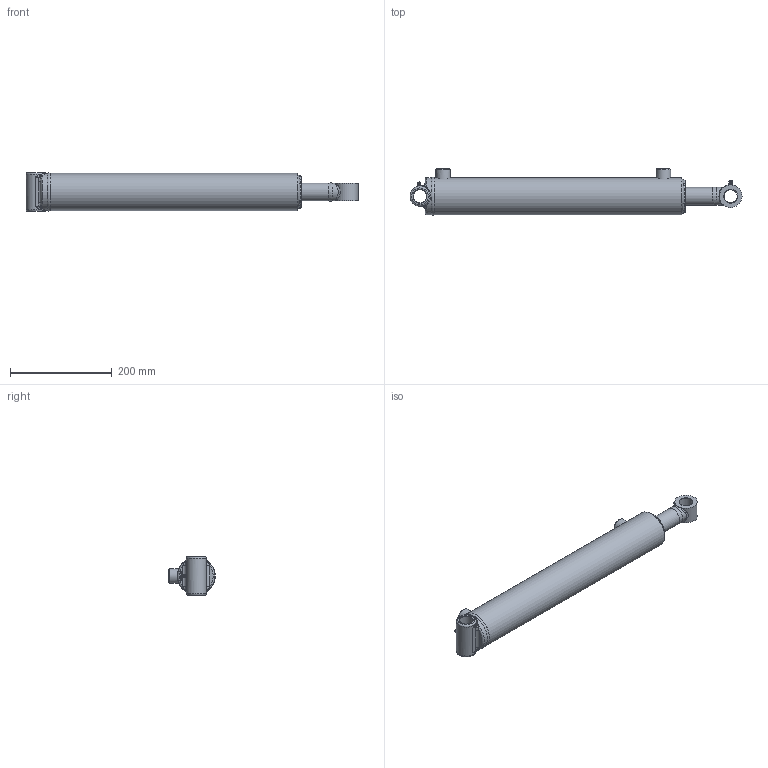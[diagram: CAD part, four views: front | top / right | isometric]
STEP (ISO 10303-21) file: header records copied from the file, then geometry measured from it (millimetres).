
FILE_DESCRIPTION(/* description */ ('Ø2.50 X 16.00 DA'),/* implementation_level */ '2;1');
FILE_NAME(/* name */ 'result.stp',/* time_stamp */ '2024-03-21T14:53:37Z',/* author */ ('AJC'),/* organization */ ('PRINCE MANUFACTURING'),/* preprocessor_version */ 'ST-DEVELOPER v20',/* originating_system */ 'Autodesk Inventor 2024',/* authorisation */ '');
FILE_SCHEMA (('AUTOMOTIVE_DESIGN { 1 0 10303 214 3 1 1 }'));
Length unit declared in the file: inch
Products named in the file (21): PC2516013A00-240XYXA; 0613-XYSF000-19237; 0513-T-19237; 161300230; 200015602; 06Weld1_C360; 0713-P-075; 220000208; 0813-G-138; 230025103; 230025003; 240000018; 240061330; 240000330; 0207A-FAW0-22250XA; 0107A-FAW0-22250; 210400812; 02Weld_C360; 240037106; 250014137; 270010020
Assembly tree (22 placements, depth 3):
  PC2516013A00-240XYXA
    0613-XYSF000-19237
      0513-T-19237
      161300230
      200015602  x2
      06Weld1_C360
    0713-P-075
    220000208
    0813-G-138
    230025103
    230025003
    240000018
    240061330
    240000330
    0207A-FAW0-22250XA
      0107A-FAW0-22250
      210400812
      02Weld_C360
    240037106
    250014137
    270010020  x2
Bounding box: 651.31 x 91.34 x 76.2 mm (x, y, z)
Volume: 1326405.4 mm3; surface area: 390200.5 mm2
Topology: 25 solids, 25 shells, 554 faces, 1338 edges, 857 vertices
Faces by surface type: bspline 155, plane 140, torus 86, cone 86, cylinder 83, sphere 4
Full cylindrical faces by diameter (mm): 2.143 x4, 3.175 x1, 5.359 x2, 6.35 x2, 9.525 x2, 12.649 x1, 12.7 x1, 12.725 x1, 17.323 x3, 18.999 x1, 19.126 x1, 21.615 x1, 25.781 x2, 28.575 x2, 34.925 x1, 35.001 x2, 35.56 x2, 36.957 x1, 40.64 x1, 41.3 x1, 44.45 x1, 46.101 x2, 47.625 x2, 50.8 x2, 54.077 x2, 54.813 x2, 59.931 x2, 60.071 x1, 60.096 x4, 62.886 x2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
Entity records: 32494 total; most frequent: CARTESIAN_POINT 20016, ORIENTED_EDGE 2458, DIRECTION 2131, EDGE_CURVE 1229, AXIS2_PLACEMENT_3D 894, VERTEX_POINT 796, EDGE_LOOP 589, FACE_OUTER_BOUND 510
